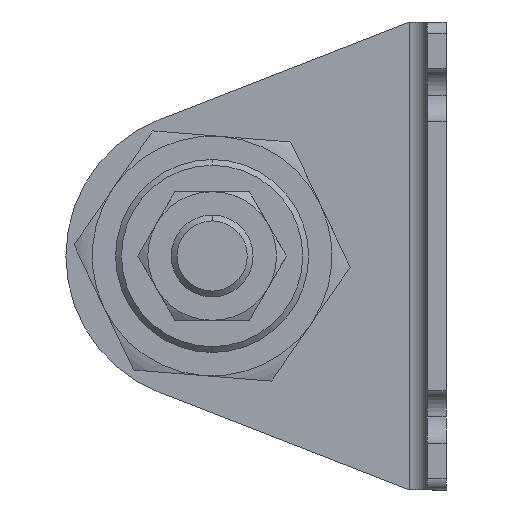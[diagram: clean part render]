
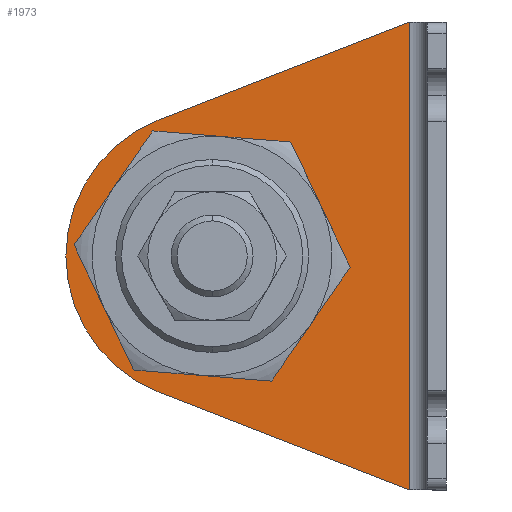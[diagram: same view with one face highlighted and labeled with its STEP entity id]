
A CAD part, left-side view. The second image highlights one B-rep face of the part: STEP entity #1973.
In plain terms, the highlighted planar face has unit normal (-1, 0, 0) as drawn and (1, 0, 0) by its records, which use the part's own axes.
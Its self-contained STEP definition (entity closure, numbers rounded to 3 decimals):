
#37 = ORIENTED_EDGE ( 'NONE', *, *, #81, .F. ) ;
#44 = CIRCLE ( 'NONE', #3507, 25. ) ;
#81 = EDGE_CURVE ( 'NONE', #4215, #186, #3998, .T. ) ;
#116 = VERTEX_POINT ( 'NONE', #2254 ) ;
#186 = VERTEX_POINT ( 'NONE', #978 ) ;
#325 = AXIS2_PLACEMENT_3D ( 'NONE', #2680, #1702, #1076 ) ;
#334 = ORIENTED_EDGE ( 'NONE', *, *, #1041, .T. ) ;
#435 = EDGE_LOOP ( 'NONE', ( #334, #656, #623, #3590, #3211 ) ) ;
#459 = LINE ( 'NONE', #1425, #2890 ) ;
#478 = VERTEX_POINT ( 'NONE', #3378 ) ;
#623 = ORIENTED_EDGE ( 'NONE', *, *, #1761, .T. ) ;
#651 = LINE ( 'NONE', #2006, #2986 ) ;
#656 = ORIENTED_EDGE ( 'NONE', *, *, #2157, .T. ) ;
#764 = EDGE_CURVE ( 'NONE', #2773, #1852, #1757, .T. ) ;
#834 = AXIS2_PLACEMENT_3D ( 'NONE', #1798, #1782, #2736 ) ;
#878 = EDGE_LOOP ( 'NONE', ( #1326, #37 ) ) ;
#978 = CARTESIAN_POINT ( 'NONE',  ( 3.2, 56.5, -40. ) ) ;
#1041 = EDGE_CURVE ( 'NONE', #116, #478, #459, .T. ) ;
#1058 = CARTESIAN_POINT ( 'NONE',  ( 3.2, 23.5, -40. ) ) ;
#1076 = DIRECTION ( 'NONE',  ( 0., 1., 0. ) ) ;
#1255 = DIRECTION ( 'NONE',  ( 1., 0., 0. ) ) ;
#1326 = ORIENTED_EDGE ( 'NONE', *, *, #1877, .F. ) ;
#1425 = CARTESIAN_POINT ( 'NONE',  ( 3.2, 3.595, -81.015 ) ) ;
#1574 = DIRECTION ( 'NONE',  ( 1., 0., 0. ) ) ;
#1612 = CARTESIAN_POINT ( 'NONE',  ( 3.2, 6.2, 0. ) ) ;
#1702 = DIRECTION ( 'NONE',  ( 1., 0., 0. ) ) ;
#1757 = LINE ( 'NONE', #2263, #1918 ) ;
#1761 = EDGE_CURVE ( 'NONE', #2997, #1852, #2769, .T. ) ;
#1782 = DIRECTION ( 'NONE',  ( 1., 0., 0. ) ) ;
#1798 = CARTESIAN_POINT ( 'NONE',  ( 3.2, 40., -40. ) ) ;
#1852 = VERTEX_POINT ( 'NONE', #3748 ) ;
#1874 = CARTESIAN_POINT ( 'NONE',  ( 3.2, 3.2, -80. ) ) ;
#1877 = EDGE_CURVE ( 'NONE', #186, #4215, #3081, .T. ) ;
#1918 = VECTOR ( 'NONE', #3907, 1000. ) ;
#1973 = ADVANCED_FACE ( 'NONE', ( #2761, #3364 ), #2178, .T. ) ;
#2006 = CARTESIAN_POINT ( 'NONE',  ( 3.2, 6.2, -80. ) ) ;
#2016 = DIRECTION ( 'NONE',  ( 0., 0., -1. ) ) ;
#2093 = AXIS2_PLACEMENT_3D ( 'NONE', #1874, #3155, #3474 ) ;
#2157 = EDGE_CURVE ( 'NONE', #478, #2997, #44, .T. ) ;
#2178 = PLANE ( 'NONE',  #2093 ) ;
#2254 = CARTESIAN_POINT ( 'NONE',  ( 3.2, 6.2, -80. ) ) ;
#2263 = CARTESIAN_POINT ( 'NONE',  ( 3.2, 30.657, -9.529 ) ) ;
#2279 = CARTESIAN_POINT ( 'NONE',  ( 3.2, 40., -40. ) ) ;
#2680 = CARTESIAN_POINT ( 'NONE',  ( 3.2, 40., -40. ) ) ;
#2736 = DIRECTION ( 'NONE',  ( 0., 1., 0. ) ) ;
#2761 = FACE_BOUND ( 'NONE', #878, .T. ) ;
#2769 = CIRCLE ( 'NONE', #325, 25. ) ;
#2773 = VERTEX_POINT ( 'NONE', #1612 ) ;
#2890 = VECTOR ( 'NONE', #3484, 1000. ) ;
#2934 = CARTESIAN_POINT ( 'NONE',  ( 3.2, 40., -40. ) ) ;
#2986 = VECTOR ( 'NONE', #2016, 1000. ) ;
#2997 = VERTEX_POINT ( 'NONE', #3334 ) ;
#3005 = EDGE_CURVE ( 'NONE', #2773, #116, #651, .T. ) ;
#3081 = CIRCLE ( 'NONE', #834, 16.5 ) ;
#3155 = DIRECTION ( 'NONE',  ( 1., 0., 0. ) ) ;
#3211 = ORIENTED_EDGE ( 'NONE', *, *, #3005, .T. ) ;
#3264 = DIRECTION ( 'NONE',  ( 0., 1., 0. ) ) ;
#3271 = AXIS2_PLACEMENT_3D ( 'NONE', #2934, #1255, #3264 ) ;
#3334 = CARTESIAN_POINT ( 'NONE',  ( 3.2, 65., -40. ) ) ;
#3364 = FACE_OUTER_BOUND ( 'NONE', #435, .T. ) ;
#3378 = CARTESIAN_POINT ( 'NONE',  ( 3.2, 49.076, -63.294 ) ) ;
#3474 = DIRECTION ( 'NONE',  ( 0., 1., 0. ) ) ;
#3484 = DIRECTION ( 'NONE',  ( 0., 0.932, 0.363 ) ) ;
#3507 = AXIS2_PLACEMENT_3D ( 'NONE', #2279, #1574, #3923 ) ;
#3590 = ORIENTED_EDGE ( 'NONE', *, *, #764, .F. ) ;
#3748 = CARTESIAN_POINT ( 'NONE',  ( 3.2, 49.076, -16.706 ) ) ;
#3907 = DIRECTION ( 'NONE',  ( 0., 0.932, -0.363 ) ) ;
#3923 = DIRECTION ( 'NONE',  ( 0., 1., 0. ) ) ;
#3998 = CIRCLE ( 'NONE', #3271, 16.5 ) ;
#4215 = VERTEX_POINT ( 'NONE', #1058 ) ;
